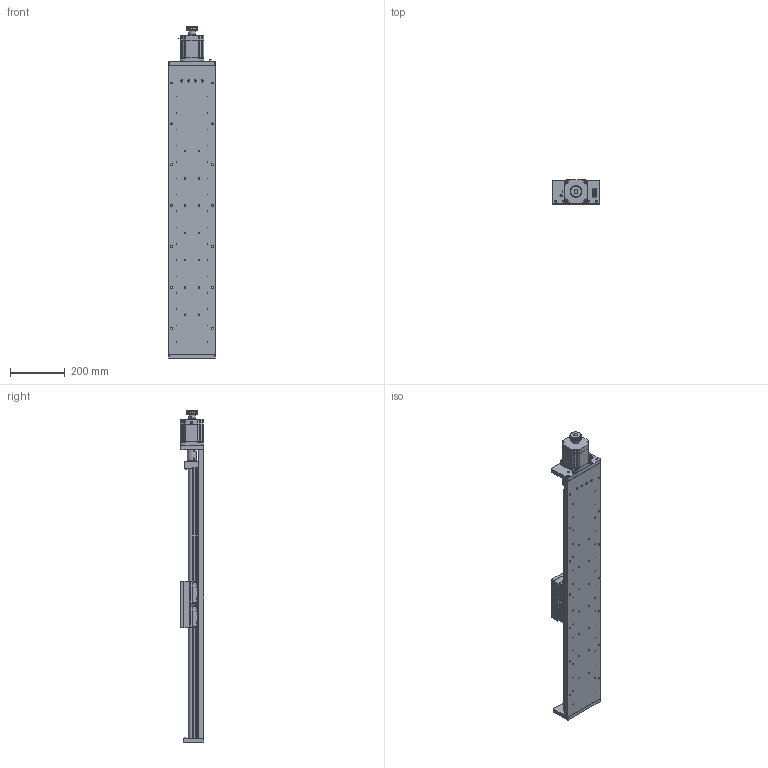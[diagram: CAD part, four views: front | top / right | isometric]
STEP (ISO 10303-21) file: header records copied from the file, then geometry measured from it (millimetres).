
FILE_DESCRIPTION (( 'STEP AP203' ), '1' );
FILE_NAME ('MTP170-800.step', '2017-01-10T10:32:34', ( '¦K¬P' ), ( '' ), 'SwSTEP 2.0', 'SolidWorks 2012', '' );
FILE_SCHEMA (( 'CONFIG_CONTROL_DESIGN' ));
Products named in the file (1): MTP170-800
Bounding box: 170 x 86.5 x 1218 mm (x, y, z)
Surface area: 893611.8 mm2 (no closed solid volume)
Topology: 0 solids, 136 shells, 1171 faces, 4950 edges, 3838 vertices
Faces by surface type: plane 695, cylinder 380, cone 79, bspline 10, sphere 4, torus 3
Full cylindrical faces by diameter (mm): 1 x4, 1.04 x2, 1.14 x4, 1.64 x9, 2.8 x10, 3 x2, 3.3 x2, 3.8 x3, 4 x2, 5 x79, 5.5 x4, 6.6 x14, 7.5 x2, 8 x22, 8.5 x1, 10 x4, 11 x42, 24 x1, 25 x1, 27 x1, 32 x1, 40 x1
Entity records: 55976 total; most frequent: CARTESIAN_POINT 17471, DIRECTION 7515, ORIENTED_EDGE 6454, EDGE_CURVE 4633, VERTEX_POINT 3806, VECTOR 2651, LINE 2651, AXIS2_PLACEMENT_3D 2432
